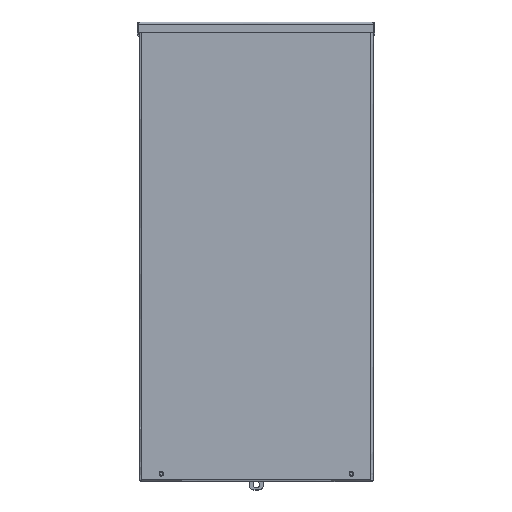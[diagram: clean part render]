
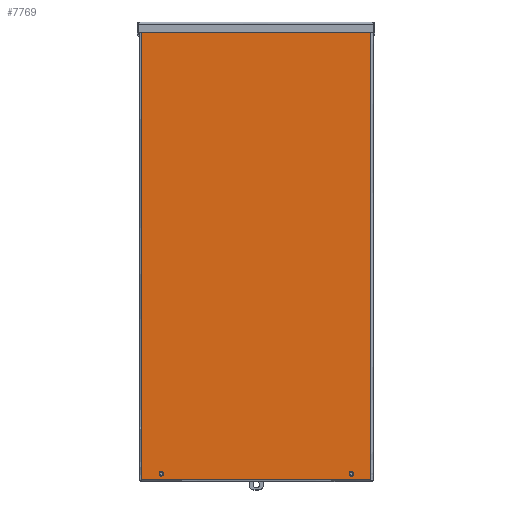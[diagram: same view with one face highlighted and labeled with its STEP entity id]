
A CAD part, top view. The second image highlights one B-rep face of the part: STEP entity #7769.
In plain terms, the highlighted free-form (B-spline) face has degree [1, 1] with [2, 2] control points.
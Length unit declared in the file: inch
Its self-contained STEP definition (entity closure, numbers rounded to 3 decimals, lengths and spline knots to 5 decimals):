
#6984=CARTESIAN_POINT('V71',(0.9855,-0.055,
   23.622));
#6985=VERTEX_POINT('V71',#6984);
#6993=CARTESIAN_POINT('V74',(1.2045,-0.055,
   23.622));
#6994=VERTEX_POINT('V74',#6993);
#6995=CARTESIAN_POINT('E88',(1.2045,-0.055,
   23.622));
#6996=CARTESIAN_POINT('E88',(1.2045,-0.055,
   23.5125));
#6997=CARTESIAN_POINT('E88',(1.095,-0.055,
   23.5125));
#6998=CARTESIAN_POINT('E88',(0.9855,-0.055,
   23.5125));
#6999=CARTESIAN_POINT('E88',(0.9855,-0.055,
   23.622));
#7007=(BOUNDED_CURVE()B_SPLINE_CURVE(2,(#6995,#6996,#6997,#6998,
   #6999),.CIRCULAR_ARC.,.F.,.U.)B_SPLINE_CURVE_WITH_KNOTS((3,2,3),
   (0.0,0.5,1.0),.UNSPECIFIED.)CURVE()
   GEOMETRIC_REPRESENTATION_ITEM()RATIONAL_B_SPLINE_CURVE((1.0,
   0.707,1.0,0.707,1.0))REPRESENTATION_ITEM(
   'E88'));
#7008=EDGE_CURVE('E88',#6994,#6985,#7007,.T.);
#7041=CARTESIAN_POINT('V73',(1.2045,-0.055,
   23.684));
#7042=VERTEX_POINT('V73',#7041);
#7043=CARTESIAN_POINT('E87',(1.2045,-0.055,
   23.684));
#7044=CARTESIAN_POINT('E87',(1.2045,-0.055,
   23.622));
#7045=QUASI_UNIFORM_CURVE('E87',1,(#7043,#7044),.POLYLINE_FORM.,.F.,
   .U.);
#7046=EDGE_CURVE('E87',#7042,#6994,#7045,.T.);
#7082=CARTESIAN_POINT('V72',(0.9855,-0.055,
   23.684));
#7083=VERTEX_POINT('V72',#7082);
#7084=CARTESIAN_POINT('E86',(0.9855,-0.055,
   23.684));
#7085=CARTESIAN_POINT('E86',(0.9855,-0.055,
   23.7935));
#7086=CARTESIAN_POINT('E86',(1.095,-0.055,
   23.7935));
#7087=CARTESIAN_POINT('E86',(1.2045,-0.055,
   23.7935));
#7088=CARTESIAN_POINT('E86',(1.2045,-0.055,
   23.684));
#7096=(BOUNDED_CURVE()B_SPLINE_CURVE(2,(#7084,#7085,#7086,#7087,
   #7088),.CIRCULAR_ARC.,.F.,.U.)B_SPLINE_CURVE_WITH_KNOTS((3,2,3),
   (0.0,0.5,1.0),.UNSPECIFIED.)CURVE()
   GEOMETRIC_REPRESENTATION_ITEM()RATIONAL_B_SPLINE_CURVE((1.0,
   0.707,1.0,0.707,1.0))REPRESENTATION_ITEM(
   'E86'));
#7097=EDGE_CURVE('E86',#7083,#7042,#7096,.T.);
#7130=CARTESIAN_POINT('E85',(0.9855,-0.055,
   23.622));
#7131=CARTESIAN_POINT('E85',(0.9855,-0.055,
   23.684));
#7132=QUASI_UNIFORM_CURVE('E85',1,(#7130,#7131),.POLYLINE_FORM.,.F.,
   .U.);
#7133=EDGE_CURVE('E85',#6985,#7083,#7132,.T.);
#7162=CARTESIAN_POINT('V67',(11.2045,-0.055,
   23.684));
#7163=VERTEX_POINT('V67',#7162);
#7171=CARTESIAN_POINT('V70',(10.9855,-0.055,
   23.684));
#7172=VERTEX_POINT('V70',#7171);
#7173=CARTESIAN_POINT('E84',(10.9855,-0.055,
   23.684));
#7174=CARTESIAN_POINT('E84',(10.9855,-0.055,
   23.7935));
#7175=CARTESIAN_POINT('E84',(11.095,-0.055,
   23.7935));
#7176=CARTESIAN_POINT('E84',(11.2045,-0.055,
   23.7935));
#7177=CARTESIAN_POINT('E84',(11.2045,-0.055,
   23.684));
#7185=(BOUNDED_CURVE()B_SPLINE_CURVE(2,(#7173,#7174,#7175,#7176,
   #7177),.CIRCULAR_ARC.,.F.,.U.)B_SPLINE_CURVE_WITH_KNOTS((3,2,3),
   (0.0,0.5,1.0),.UNSPECIFIED.)CURVE()
   GEOMETRIC_REPRESENTATION_ITEM()RATIONAL_B_SPLINE_CURVE((1.0,
   0.707,1.0,0.707,1.0))REPRESENTATION_ITEM(
   'E84'));
#7186=EDGE_CURVE('E84',#7172,#7163,#7185,.T.);
#7219=CARTESIAN_POINT('V69',(10.9855,-0.055,
   23.622));
#7220=VERTEX_POINT('V69',#7219);
#7221=CARTESIAN_POINT('E83',(10.9855,-0.055,
   23.622));
#7222=CARTESIAN_POINT('E83',(10.9855,-0.055,
   23.684));
#7223=QUASI_UNIFORM_CURVE('E83',1,(#7221,#7222),.POLYLINE_FORM.,.F.,
   .U.);
#7224=EDGE_CURVE('E83',#7220,#7172,#7223,.T.);
#7260=CARTESIAN_POINT('V68',(11.2045,-0.055,
   23.622));
#7261=VERTEX_POINT('V68',#7260);
#7262=CARTESIAN_POINT('E82',(11.2045,-0.055,
   23.622));
#7263=CARTESIAN_POINT('E82',(11.2045,-0.055,
   23.5125));
#7264=CARTESIAN_POINT('E82',(11.095,-0.055,
   23.5125));
#7265=CARTESIAN_POINT('E82',(10.9855,-0.055,
   23.5125));
#7266=CARTESIAN_POINT('E82',(10.9855,-0.055,
   23.622));
#7274=(BOUNDED_CURVE()B_SPLINE_CURVE(2,(#7262,#7263,#7264,#7265,
   #7266),.CIRCULAR_ARC.,.F.,.U.)B_SPLINE_CURVE_WITH_KNOTS((3,2,3),
   (0.0,0.5,1.0),.UNSPECIFIED.)CURVE()
   GEOMETRIC_REPRESENTATION_ITEM()RATIONAL_B_SPLINE_CURVE((1.0,
   0.707,1.0,0.707,1.0))REPRESENTATION_ITEM(
   'E82'));
#7275=EDGE_CURVE('E82',#7261,#7220,#7274,.T.);
#7308=CARTESIAN_POINT('E81',(11.2045,-0.055,
   23.684));
#7309=CARTESIAN_POINT('E81',(11.2045,-0.055,
   23.622));
#7310=QUASI_UNIFORM_CURVE('E81',1,(#7308,#7309),.POLYLINE_FORM.,.F.,
   .U.);
#7311=EDGE_CURVE('E81',#7163,#7261,#7310,.T.);
#7666=CARTESIAN_POINT('V44',(0.06,-0.055,
   23.945));
#7667=VERTEX_POINT('V44',#7666);
#7704=CARTESIAN_POINT('V45',(0.06,-0.055,
   0.));
#7705=VERTEX_POINT('V45',#7704);
#7706=CARTESIAN_POINT('E52',(0.06,-0.055,
   0.));
#7707=CARTESIAN_POINT('E52',(0.06,-0.055,
   23.945));
#7708=QUASI_UNIFORM_CURVE('E52',1,(#7706,#7707),.POLYLINE_FORM.,.F.,
   .U.);
#7709=EDGE_CURVE('E52',#7705,#7667,#7708,.T.);
#7730=CARTESIAN_POINT('F21',(12.13,-0.055,
   0.));
#7731=CARTESIAN_POINT('F21',(12.13,-0.055,
   23.945));
#7732=CARTESIAN_POINT('F21',(0.06,-0.055,
   0.));
#7733=CARTESIAN_POINT('F21',(0.06,-0.055,
   23.945));
#7734=B_SPLINE_SURFACE_WITH_KNOTS('F21',1,1,((#7730,#7732),(#7731,
   #7733)),.PLANE_SURF.,.F.,.F.,.U.,(2,2),(2,2),(
   0.0001,1.98355),(0.0001,
   0.9999),.UNSPECIFIED.);
#7735=CARTESIAN_POINT('V41',(12.13,-0.055,
   0.));
#7736=VERTEX_POINT('V41',#7735);
#7737=CARTESIAN_POINT('E80',(0.06,-0.055,
   0.0));
#7738=CARTESIAN_POINT('E80',(12.13,-0.055,
   0.0));
#7739=QUASI_UNIFORM_CURVE('E80',1,(#7737,#7738),.POLYLINE_FORM.,.F.,
   .U.);
#7740=EDGE_CURVE('E80',#7705,#7736,#7739,.T.);
#7741=ORIENTED_EDGE('E80',*,*,#7740,.T.);
#7742=CARTESIAN_POINT('V40',(12.13,-0.055,
   23.945));
#7743=VERTEX_POINT('V40',#7742);
#7744=CARTESIAN_POINT('E48',(12.13,-0.055,
   23.945));
#7745=CARTESIAN_POINT('E48',(12.13,-0.055,
   0.));
#7746=QUASI_UNIFORM_CURVE('E48',1,(#7744,#7745),.POLYLINE_FORM.,.F.,
   .U.);
#7747=EDGE_CURVE('E48',#7743,#7736,#7746,.T.);
#7748=ORIENTED_EDGE('E48',*,*,#7747,.F.);
#7749=CARTESIAN_POINT('E60',(0.06,-0.055,
   23.945));
#7750=CARTESIAN_POINT('E60',(12.13,-0.055,
   23.945));
#7751=QUASI_UNIFORM_CURVE('E60',1,(#7749,#7750),.POLYLINE_FORM.,.F.,
   .U.);
#7752=EDGE_CURVE('E60',#7667,#7743,#7751,.T.);
#7753=ORIENTED_EDGE('E60',*,*,#7752,.F.);
#7754=ORIENTED_EDGE('E52',*,*,#7709,.F.);
#7755=EDGE_LOOP('F21',(#7741,#7748,#7753,#7754));
#7756=FACE_OUTER_BOUND('F21',#7755,.T.);
#7757=ORIENTED_EDGE('E81',*,*,#7311,.T.);
#7758=ORIENTED_EDGE('E82',*,*,#7275,.T.);
#7759=ORIENTED_EDGE('E83',*,*,#7224,.T.);
#7760=ORIENTED_EDGE('E84',*,*,#7186,.T.);
#7761=EDGE_LOOP('F21',(#7757,#7758,#7759,#7760));
#7762=FACE_BOUND('F21',#7761,.T.);
#7763=ORIENTED_EDGE('E85',*,*,#7133,.T.);
#7764=ORIENTED_EDGE('E86',*,*,#7097,.T.);
#7765=ORIENTED_EDGE('E87',*,*,#7046,.T.);
#7766=ORIENTED_EDGE('E88',*,*,#7008,.T.);
#7767=EDGE_LOOP('F21',(#7763,#7764,#7765,#7766));
#7768=FACE_BOUND('F21',#7767,.T.);
#7769=ADVANCED_FACE('F21',(#7756,#7762,#7768),#7734,.T.);
